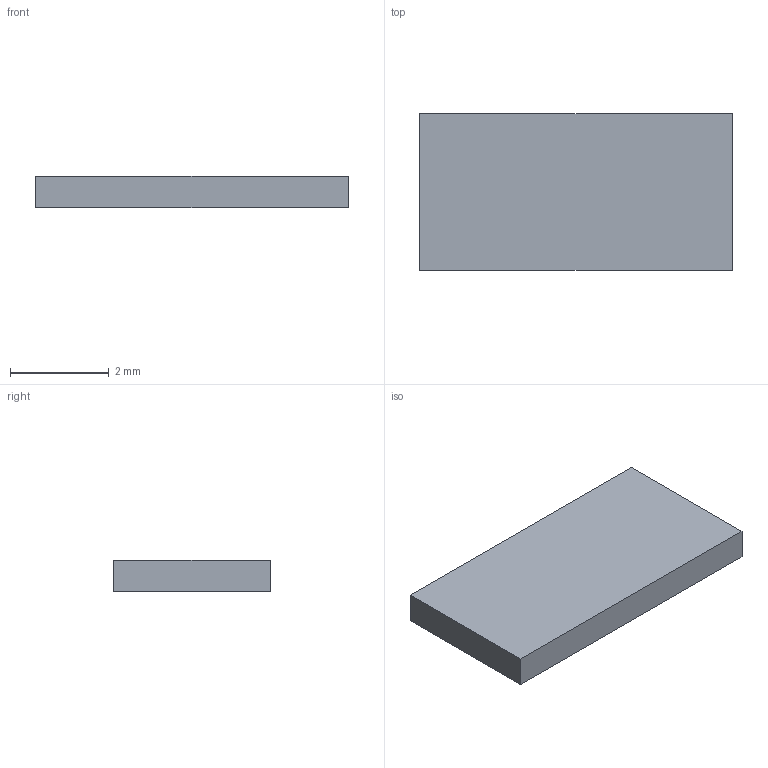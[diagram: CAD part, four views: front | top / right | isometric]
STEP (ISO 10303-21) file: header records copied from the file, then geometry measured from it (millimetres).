
FILE_DESCRIPTION(('Open CASCADE Model'),'2;1');
FILE_NAME('Open CASCADE Shape Model','2000-01-01T00:00:00',('Author'),( 'Open CASCADE'),'Open CASCADE STEP processor 7.9','Open CASCADE 7.9' ,'Unknown');
FILE_SCHEMA((''));
Length unit declared in the file: millimetre
Products named in the file (1): Open CASCADE STEP translator 7.9 1
Bounding box: 6.35 x 3.18 x 0.64 mm (x, y, z)
Volume: 12.8 mm3; surface area: 52.5 mm2
Topology: 1 solids, 1 shells, 6 faces, 12 edges, 8 vertices
Faces by surface type: plane 6
Entity records: 322 total; most frequent: CARTESIAN_POINT 51, DIRECTION 50, LINE 36, VECTOR 36, ORIENTED_EDGE 24, PCURVE 24, DEFINITIONAL_REPRESENTATION 24, EDGE_CURVE 12
